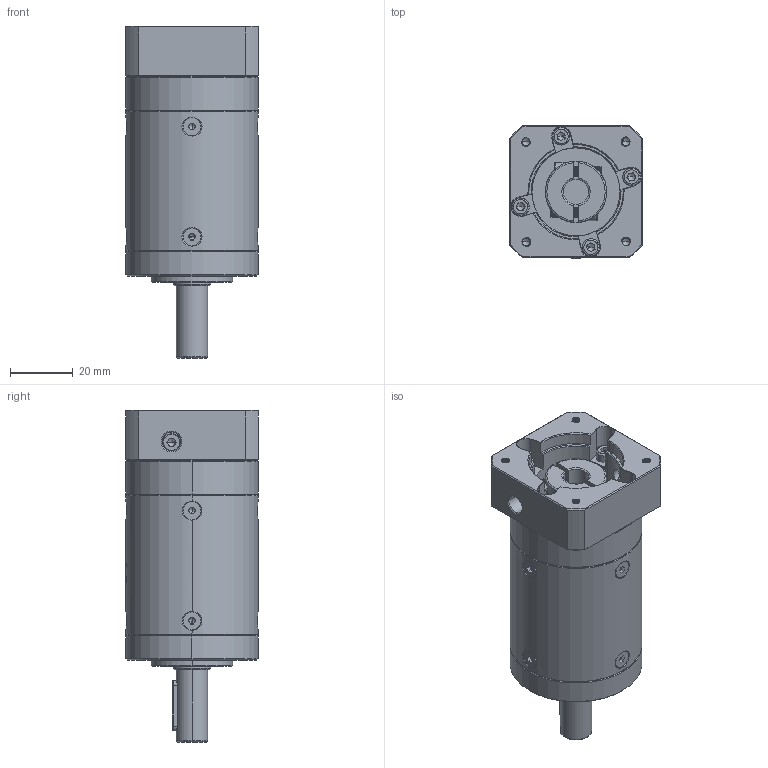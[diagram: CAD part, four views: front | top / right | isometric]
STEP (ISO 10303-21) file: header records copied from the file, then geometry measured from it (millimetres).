
FILE_DESCRIPTION (( 'STEP AP214' ), '1' );
FILE_NAME ('ZE40-L2-P2-8-30-45-M3.STEP', '2023-06-06T13:02:24', ( 'Windows 蚚誧' ), ( 'Organization' ), 'SwSTEP 2.0', 'SolidWorks 2016', '' );
FILE_SCHEMA (( 'AUTOMOTIVE_DESIGN' ));
Length unit declared in the file: millimetre
Products named in the file (1): ZE40-L2-P2-8-30-45-M3
Bounding box: 42 x 42 x 105.5 mm (x, y, z)
Volume: 102494.1 mm3; surface area: 27274 mm2
Topology: 14 solids, 14 shells, 2416 faces, 6224 edges, 3894 vertices
Faces by surface type: plane 938, cylinder 620, cone 490, bspline 350, torus 18
Entity records: 140352 total; most frequent: CARTESIAN_POINT 59344, ORIENTED_EDGE 12356, DIRECTION 9939, EDGE_CURVE 6178, VERTEX_POINT 3894, AXIS2_PLACEMENT_3D 3396, LINE 3147, VECTOR 3147
